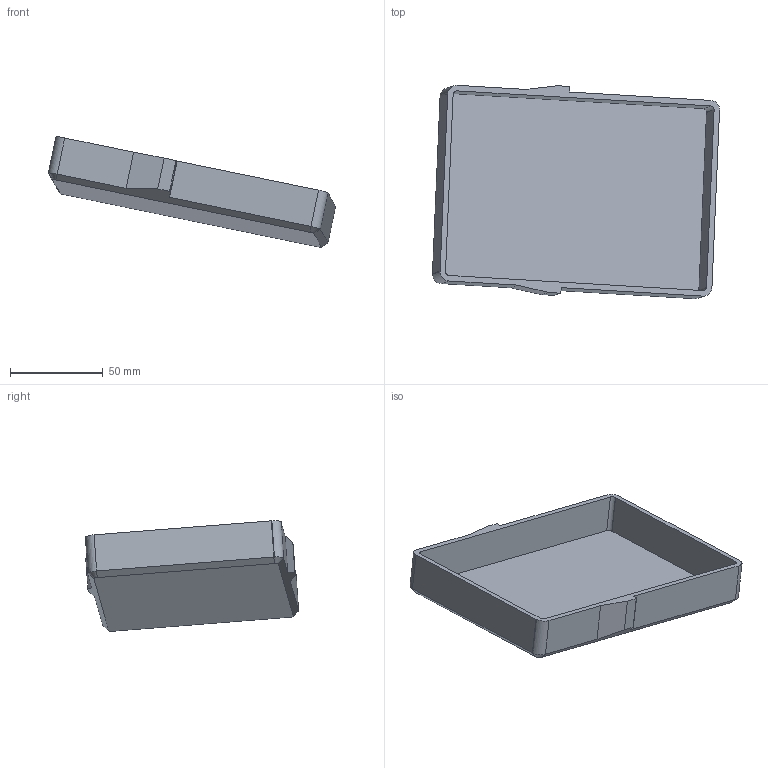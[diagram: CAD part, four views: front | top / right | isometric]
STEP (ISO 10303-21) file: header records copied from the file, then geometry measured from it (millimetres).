
FILE_DESCRIPTION (( 'STEP AP214' ), '1' );
FILE_NAME ('1997 Honda VFR750FV Underseat Tray.STEP', '2024-04-30T15:25:01', ( '' ), ( '' ), 'SwSTEP 2.0', 'SolidWorks 2022', '' );
FILE_SCHEMA (( 'AUTOMOTIVE_DESIGN' ));
Length unit declared in the file: millimetre
Products named in the file (1): 1997 Honda VFR750FV Underseat Tray
Bounding box: 154.88 x 115.03 x 59.67 mm (x, y, z)
Volume: 76781.4 mm3; surface area: 52375.3 mm2
Topology: 1 solids, 1 shells, 42 faces, 109 edges, 70 vertices
Faces by surface type: plane 25, cylinder 12, cone 5
Entity records: 1311 total; most frequent: CARTESIAN_POINT 228, DIRECTION 221, ORIENTED_EDGE 218, EDGE_CURVE 109, LINE 79, VECTOR 79, AXIS2_PLACEMENT_3D 71, VERTEX_POINT 70
